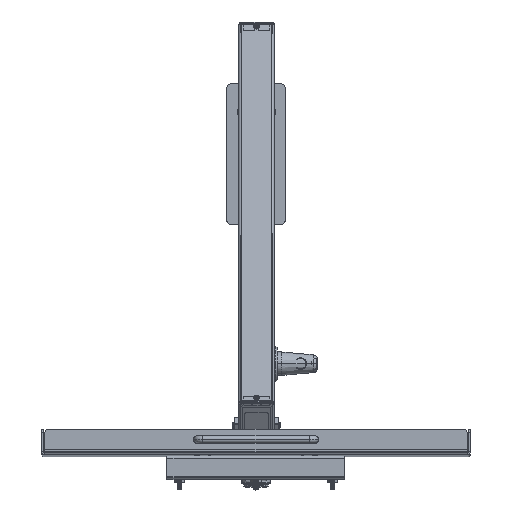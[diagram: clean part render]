
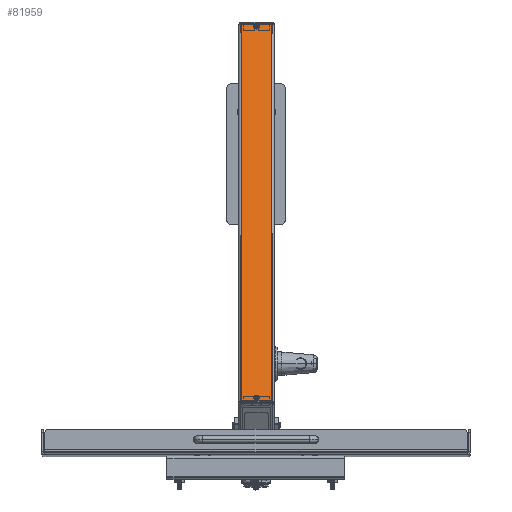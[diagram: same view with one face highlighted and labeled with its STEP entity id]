
A CAD part, top view. The second image highlights one B-rep face of the part: STEP entity #81959.
In plain terms, the highlighted planar face has unit normal (0, 0.819, 0.574) as drawn and (0, 1, 0) by its records, which use the part's own axes.
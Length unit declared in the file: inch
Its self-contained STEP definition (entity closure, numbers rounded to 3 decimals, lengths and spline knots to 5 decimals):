
#199 = CIRCLE ( 'NONE', #57763, 0.079 ) ;
#518 = FACE_OUTER_BOUND ( 'NONE', #7172, .T. ) ;
#530 = VERTEX_POINT ( 'NONE', #8083 ) ;
#559 = CIRCLE ( 'NONE', #78125, 0.079 ) ;
#1709 = EDGE_CURVE ( 'NONE', #75000, #26859, #27067, .T. ) ;
#2830 = AXIS2_PLACEMENT_3D ( 'NONE', #51239, #43710, #31157 ) ;
#3147 = DIRECTION ( 'NONE',  ( 0., 0., -1. ) ) ;
#3607 = ORIENTED_EDGE ( 'NONE', *, *, #20460, .F. ) ;
#4311 = DIRECTION ( 'NONE',  ( 0., 1., 0. ) ) ;
#6371 = DIRECTION ( 'NONE',  ( 0., 1., 0. ) ) ;
#6583 = DIRECTION ( 'NONE',  ( 1., 0., 0. ) ) ;
#6841 = EDGE_LOOP ( 'NONE', ( #3607, #19892 ) ) ;
#7172 = EDGE_LOOP ( 'NONE', ( #38503, #60853, #52807, #65366 ) ) ;
#8083 = CARTESIAN_POINT ( 'NONE',  ( -0.75, 0., 27.666 ) ) ;
#9363 = DIRECTION ( 'NONE',  ( 0., 1., 0. ) ) ;
#9634 = VECTOR ( 'NONE', #9749, 39.37008 ) ;
#9749 = DIRECTION ( 'NONE',  ( 1., 0., 0. ) ) ;
#12133 = EDGE_CURVE ( 'NONE', #21048, #29841, #73532, .T. ) ;
#14103 = CARTESIAN_POINT ( 'NONE',  ( -0.75, 0., 0.255 ) ) ;
#14798 = EDGE_CURVE ( 'NONE', #81112, #76299, #199, .T. ) ;
#15933 = CARTESIAN_POINT ( 'NONE',  ( -0.1, 0., 28. ) ) ;
#19892 = ORIENTED_EDGE ( 'NONE', *, *, #43164, .F. ) ;
#20313 = VECTOR ( 'NONE', #3147, 39.37008 ) ;
#20460 = EDGE_CURVE ( 'NONE', #57328, #530, #33667, .T. ) ;
#21048 = VERTEX_POINT ( 'NONE', #27544 ) ;
#21769 = ORIENTED_EDGE ( 'NONE', *, *, #14798, .F. ) ;
#23301 = VECTOR ( 'NONE', #72282, 39.37008 ) ;
#26859 = VERTEX_POINT ( 'NONE', #75310 ) ;
#27067 = LINE ( 'NONE', #64372, #23301 ) ;
#27544 = CARTESIAN_POINT ( 'NONE',  ( -1.4, 0., 28. ) ) ;
#29841 = VERTEX_POINT ( 'NONE', #43301 ) ;
#30738 = FACE_BOUND ( 'NONE', #45597, .T. ) ;
#31157 = DIRECTION ( 'NONE',  ( 0., 0., 1. ) ) ;
#31579 = PLANE ( 'NONE',  #2830 ) ;
#33667 = CIRCLE ( 'NONE', #65703, 0.079 ) ;
#34859 = EDGE_CURVE ( 'NONE', #29841, #26859, #60496, .T. ) ;
#35416 = CARTESIAN_POINT ( 'NONE',  ( -1.4, 0., 28. ) ) ;
#36617 = CARTESIAN_POINT ( 'NONE',  ( -0.75, 0., 27.745 ) ) ;
#38503 = ORIENTED_EDGE ( 'NONE', *, *, #34859, .F. ) ;
#38689 = FACE_BOUND ( 'NONE', #6841, .T. ) ;
#39882 = DIRECTION ( 'NONE',  ( 0., 0., 1. ) ) ;
#42474 = DIRECTION ( 'NONE',  ( 0., 0., 1. ) ) ;
#42884 = DIRECTION ( 'NONE',  ( 0., 0., 1. ) ) ;
#43164 = EDGE_CURVE ( 'NONE', #530, #57328, #57447, .T. ) ;
#43301 = CARTESIAN_POINT ( 'NONE',  ( -1.4, 0., 0. ) ) ;
#43710 = DIRECTION ( 'NONE',  ( 0., 1., 0. ) ) ;
#44318 = LINE ( 'NONE', #82419, #66986 ) ;
#45597 = EDGE_LOOP ( 'NONE', ( #21769, #46891 ) ) ;
#46891 = ORIENTED_EDGE ( 'NONE', *, *, #55817, .F. ) ;
#46934 = EDGE_CURVE ( 'NONE', #21048, #75000, #44318, .T. ) ;
#51239 = CARTESIAN_POINT ( 'NONE',  ( -0.1, 0., 28. ) ) ;
#51608 = CARTESIAN_POINT ( 'NONE',  ( -0.75, 0., 27.824 ) ) ;
#52235 = DIRECTION ( 'NONE',  ( 0., 0., 1. ) ) ;
#52807 = ORIENTED_EDGE ( 'NONE', *, *, #46934, .T. ) ;
#54599 = CARTESIAN_POINT ( 'NONE',  ( -0.1, 0., 0. ) ) ;
#54749 = AXIS2_PLACEMENT_3D ( 'NONE', #76328, #6371, #39882 ) ;
#55817 = EDGE_CURVE ( 'NONE', #76299, #81112, #559, .T. ) ;
#57328 = VERTEX_POINT ( 'NONE', #51608 ) ;
#57447 = CIRCLE ( 'NONE', #54749, 0.079 ) ;
#57763 = AXIS2_PLACEMENT_3D ( 'NONE', #14103, #77354, #52235 ) ;
#58056 = CARTESIAN_POINT ( 'NONE',  ( -0.75, 0., 0.334 ) ) ;
#60496 = LINE ( 'NONE', #54599, #9634 ) ;
#60853 = ORIENTED_EDGE ( 'NONE', *, *, #12133, .F. ) ;
#61538 = CARTESIAN_POINT ( 'NONE',  ( -0.75, 0., 0.176 ) ) ;
#61734 = CARTESIAN_POINT ( 'NONE',  ( -0.75, 0., 0.255 ) ) ;
#64372 = CARTESIAN_POINT ( 'NONE',  ( -0.1, 0., 28. ) ) ;
#65366 = ORIENTED_EDGE ( 'NONE', *, *, #1709, .T. ) ;
#65703 = AXIS2_PLACEMENT_3D ( 'NONE', #36617, #9363, #42474 ) ;
#66986 = VECTOR ( 'NONE', #6583, 39.37008 ) ;
#72282 = DIRECTION ( 'NONE',  ( 0., 0., -1. ) ) ;
#73532 = LINE ( 'NONE', #35416, #20313 ) ;
#75000 = VERTEX_POINT ( 'NONE', #15933 ) ;
#75310 = CARTESIAN_POINT ( 'NONE',  ( -0.1, 0., 0. ) ) ;
#76299 = VERTEX_POINT ( 'NONE', #61538 ) ;
#76328 = CARTESIAN_POINT ( 'NONE',  ( -0.75, 0., 27.745 ) ) ;
#77354 = DIRECTION ( 'NONE',  ( 0., 1., 0. ) ) ;
#78125 = AXIS2_PLACEMENT_3D ( 'NONE', #61734, #4311, #42884 ) ;
#81112 = VERTEX_POINT ( 'NONE', #58056 ) ;
#81959 = ADVANCED_FACE ( 'NONE', ( #38689, #30738, #518 ), #31579, .T. ) ;
#82419 = CARTESIAN_POINT ( 'NONE',  ( -0.1, 0., 28. ) ) ;
